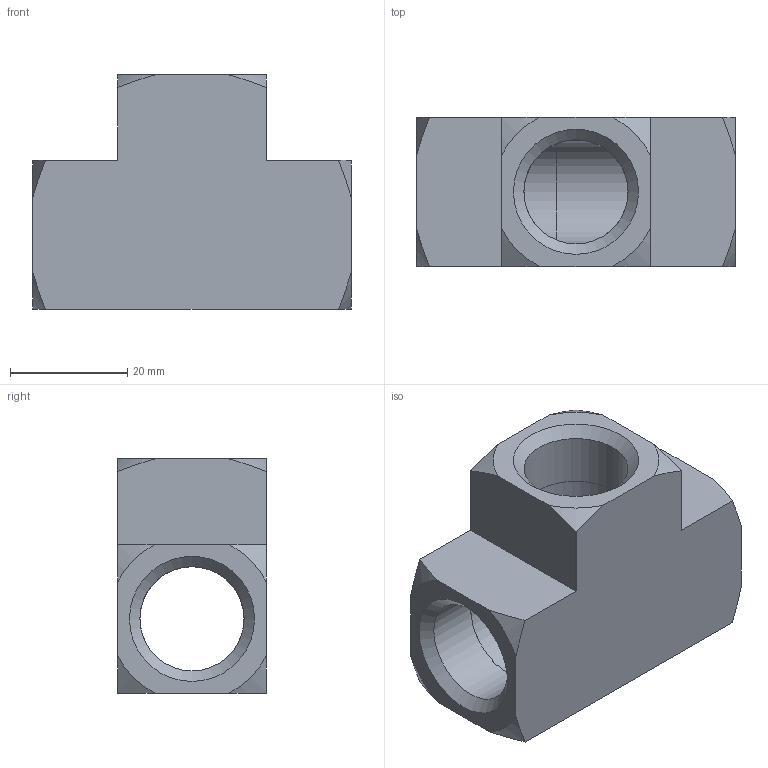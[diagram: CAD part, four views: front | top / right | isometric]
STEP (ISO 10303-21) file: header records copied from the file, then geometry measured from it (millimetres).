
FILE_DESCRIPTION(/* description */ (''),/* implementation_level */ '2;1');
FILE_NAME(/* name */ 'C:/Users/drich/Desktop/T-50 v1.step',/* time_stamp */ '2020-02-09T11:08:10-06:00',/* author */ (''),/* organization */ (''),/* preprocessor_version */ 'ST-DEVELOPER v18',/* originating_system */ 'Autodesk Translation Framework v8.12.0.6',/* authorisation */ '');
FILE_SCHEMA (('AUTOMOTIVE_DESIGN { 1 0 10303 214 3 1 1 }'));
Length unit declared in the file: inch
Products named in the file (1): T-50
Bounding box: 54.36 x 25.4 x 40.01 mm (x, y, z)
Volume: 25695.5 mm3; surface area: 11190.2 mm2
Topology: 1 solids, 1 shells, 43 faces, 116 edges, 77 vertices
Faces by surface type: cone 17, cylinder 13, plane 13
Full cylindrical faces by diameter (mm): 17.755 x3, 17.78 x3
Entity records: 1407 total; most frequent: CARTESIAN_POINT 296, ORIENTED_EDGE 232, DIRECTION 230, EDGE_CURVE 116, AXIS2_PLACEMENT_3D 96, VERTEX_POINT 77, EDGE_LOOP 49, FACE_OUTER_BOUND 43
